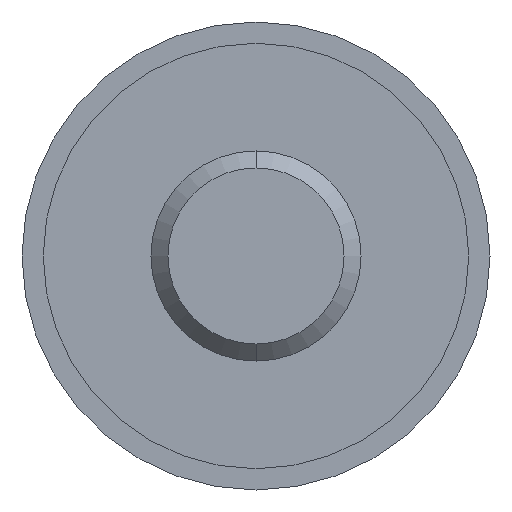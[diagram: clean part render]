
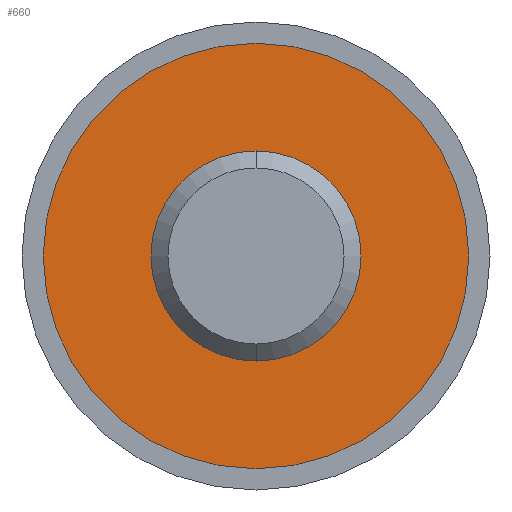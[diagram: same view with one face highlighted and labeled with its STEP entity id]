
A CAD part, front view. The second image highlights one B-rep face of the part: STEP entity #660.
In plain terms, the highlighted planar face has unit normal (0, -1, 0).
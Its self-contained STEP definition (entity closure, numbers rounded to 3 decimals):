
#185=CARTESIAN_POINT('',(0.,1.2,0.));
#186=DIRECTION('',(0.,1.,0.));
#187=DIRECTION('',(0.,0.,-1.));
#188=AXIS2_PLACEMENT_3D('',#185,#186,#187);
#190=CARTESIAN_POINT('',(0.,1.2,0.));
#191=DIRECTION('',(0.,-1.,0.));
#192=DIRECTION('',(0.,0.,-1.));
#193=AXIS2_PLACEMENT_3D('',#190,#191,#192);
#195=CARTESIAN_POINT('',(0.,1.2,0.));
#196=DIRECTION('',(0.,-1.,0.));
#197=DIRECTION('',(0.,0.,-1.));
#198=AXIS2_PLACEMENT_3D('',#195,#196,#197);
#200=CARTESIAN_POINT('',(0.,1.2,0.));
#201=DIRECTION('',(0.,1.,0.));
#202=DIRECTION('',(0.,0.,-1.));
#203=AXIS2_PLACEMENT_3D('',#200,#201,#202);
#300=CARTESIAN_POINT('',(0.,1.2,-0.735));
#302=VERTEX_POINT('',#300);
#303=CARTESIAN_POINT('',(0.,1.2,-2.5));
#305=VERTEX_POINT('',#303);
#336=CARTESIAN_POINT('',(0.,1.2,0.735));
#338=VERTEX_POINT('',#336);
#339=CARTESIAN_POINT('',(0.,1.2,2.5));
#341=VERTEX_POINT('',#339);
#645=CARTESIAN_POINT('',(0.,1.2,0.));
#646=DIRECTION('',(0.,-1.,0.));
#647=DIRECTION('',(0.,0.,1.));
#648=AXIS2_PLACEMENT_3D('',#645,#646,#647);
#649=PLANE('',#648);
#650=ORIENTED_EDGE('',*,*,#627,.T.);
#651=ORIENTED_EDGE('',*,*,#638,.F.);
#652=EDGE_LOOP('',(#650,#651));
#653=FACE_OUTER_BOUND('',#652,.F.);
#655=ORIENTED_EDGE('',*,*,#654,.T.);
#657=ORIENTED_EDGE('',*,*,#656,.F.);
#658=EDGE_LOOP('',(#655,#657));
#659=FACE_BOUND('',#658,.F.);
#660=ADVANCED_FACE('',(#653,#659),#649,.T.);
#189=CIRCLE('',#188,2.5);
#194=CIRCLE('',#193,2.5);
#199=CIRCLE('',#198,0.735);
#204=CIRCLE('',#203,0.735);
#627=EDGE_CURVE('',#305,#341,#189,.T.);
#638=EDGE_CURVE('',#305,#341,#194,.T.);
#654=EDGE_CURVE('',#302,#338,#199,.T.);
#656=EDGE_CURVE('',#302,#338,#204,.T.);
